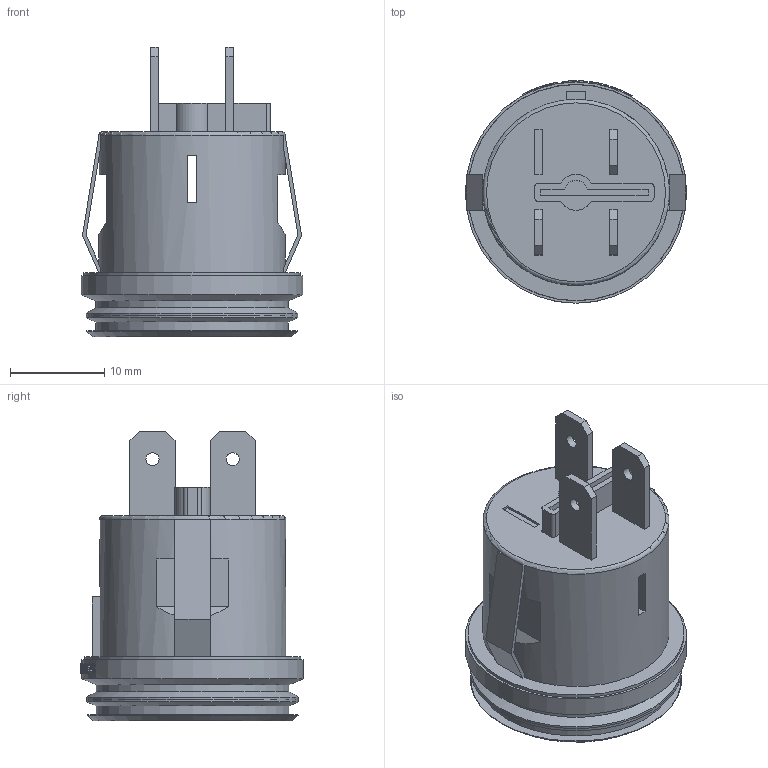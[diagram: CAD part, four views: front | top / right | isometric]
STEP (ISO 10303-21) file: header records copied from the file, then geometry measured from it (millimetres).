
FILE_DESCRIPTION(/* description */ (''),/* implementation_level */ '2;1');
FILE_NAME(/* name */ 'PB-1A-DC-2-RDL v2.stp',/* time_stamp */ '2023-10-04T09:58:23-07:00',/* author */ ('RaniahC'),/* organization */ (''),/* preprocessor_version */ 'ST-DEVELOPER v19.2',/* originating_system */ 'Autodesk Inventor 2024',/* authorisation */ '');
FILE_SCHEMA (('AUTOMOTIVE_DESIGN { 1 0 10303 214 3 1 1 }'));
Length unit declared in the file: millimetre
Products named in the file (1): PB-1A-DC-2-RDL
Bounding box: 23.54 x 23.67 x 30.85 mm (x, y, z)
Volume: 3415.3 mm3; surface area: 6223.4 mm2
Topology: 2 solids, 3 shells, 383 faces, 1033 edges, 682 vertices
Faces by surface type: plane 185, bspline 143, cylinder 44, cone 9, torus 2
Full cylindrical faces by diameter (mm): 1.4 x3, 14.72 x1, 19.8 x1, 19.996 x2, 20.504 x2, 21.984 x1, 22.522 x1, 23 x1, 23.03 x1, 23.538 x1
Entity records: 16508 total; most frequent: CARTESIAN_POINT 7581, ORIENTED_EDGE 2066, DIRECTION 1441, EDGE_CURVE 1033, VERTEX_POINT 682, LINE 567, VECTOR 567, AXIS2_PLACEMENT_3D 437
